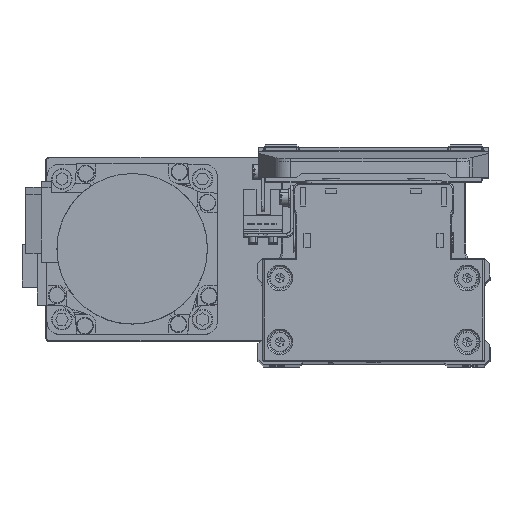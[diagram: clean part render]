
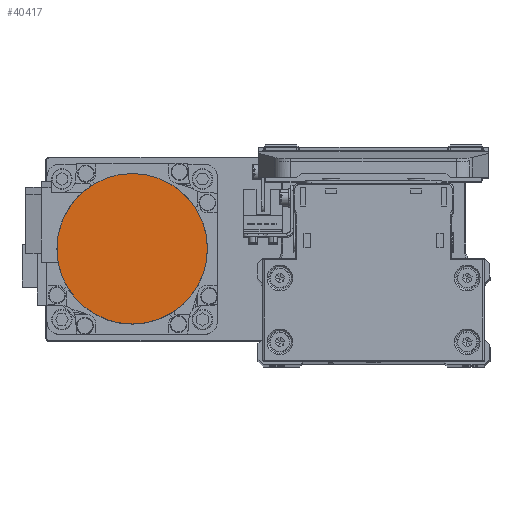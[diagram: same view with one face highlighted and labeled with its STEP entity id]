
A CAD part, top view. The second image highlights one B-rep face of the part: STEP entity #40417.
In plain terms, the highlighted planar face has unit normal (0, 0, 1) as drawn and (0, 0, -1) by its records, which use the part's own axes.
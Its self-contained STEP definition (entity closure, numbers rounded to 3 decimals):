
#232 = CARTESIAN_POINT ( 'NONE',  ( -26.5, 0., -109.7 ) ) ;
#604 = DIRECTION ( 'NONE',  ( 0., 0., 1. ) ) ;
#2034 = PLANE ( 'NONE',  #14009 ) ;
#2523 = DIRECTION ( 'NONE',  ( 0., 0., 1. ) ) ;
#5928 = CIRCLE ( 'NONE', #28826, 26.5 ) ;
#7840 = ORIENTED_EDGE ( 'NONE', *, *, #35827, .F. ) ;
#10840 = AXIS2_PLACEMENT_3D ( 'NONE', #30598, #2523, #15051 ) ;
#13121 = DIRECTION ( 'NONE',  ( 1., 0., 0. ) ) ;
#14009 = AXIS2_PLACEMENT_3D ( 'NONE', #14565, #27043, #39583 ) ;
#14548 = EDGE_CURVE ( 'NONE', #17216, #38954, #28462, .T. ) ;
#14565 = CARTESIAN_POINT ( 'NONE',  ( 0., 0., -109.7 ) ) ;
#15051 = DIRECTION ( 'NONE',  ( -1., 0., 0. ) ) ;
#17216 = VERTEX_POINT ( 'NONE', #232 ) ;
#20654 = CARTESIAN_POINT ( 'NONE',  ( 26.5, 0., -109.7 ) ) ;
#27043 = DIRECTION ( 'NONE',  ( 0., 0., 1. ) ) ;
#28462 = CIRCLE ( 'NONE', #10840, 26.5 ) ;
#28680 = CARTESIAN_POINT ( 'NONE',  ( 0., 0., -109.7 ) ) ;
#28826 = AXIS2_PLACEMENT_3D ( 'NONE', #28680, #604, #13121 ) ;
#30113 = FACE_OUTER_BOUND ( 'NONE', #37099, .T. ) ;
#30598 = CARTESIAN_POINT ( 'NONE',  ( 0., 0., -109.7 ) ) ;
#35332 = ORIENTED_EDGE ( 'NONE', *, *, #14548, .F. ) ;
#35827 = EDGE_CURVE ( 'NONE', #38954, #17216, #5928, .T. ) ;
#37099 = EDGE_LOOP ( 'NONE', ( #35332, #7840 ) ) ;
#38954 = VERTEX_POINT ( 'NONE', #20654 ) ;
#39583 = DIRECTION ( 'NONE',  ( 1., 0., 0. ) ) ;
#40417 = ADVANCED_FACE ( 'NONE', ( #30113 ), #2034, .F. ) ;
